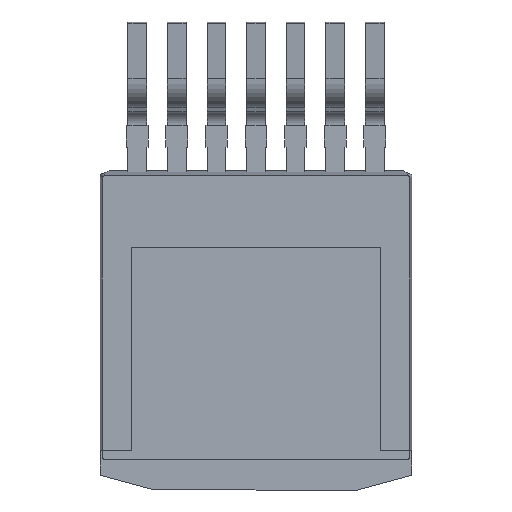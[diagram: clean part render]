
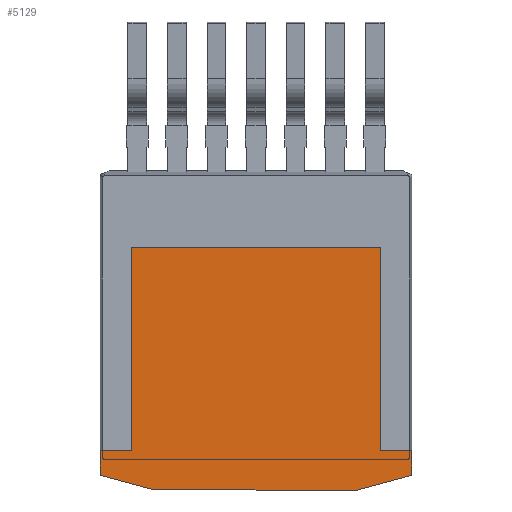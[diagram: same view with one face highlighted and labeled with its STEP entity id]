
A CAD part, front view. The second image highlights one B-rep face of the part: STEP entity #5129.
In plain terms, the highlighted planar face has unit normal (0, -1, 0).
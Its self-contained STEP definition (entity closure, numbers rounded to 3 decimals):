
#76 = VERTEX_POINT ( 'NONE', #78 ) ;
#78 = CARTESIAN_POINT ( 'NONE',  ( -1.126, 0., -7.179 ) ) ;
#385 = VECTOR ( 'NONE', #4995, 1000. ) ;
#397 = VECTOR ( 'NONE', #2663, 1000. ) ;
#427 = CARTESIAN_POINT ( 'NONE',  ( 0., 0., 0. ) ) ;
#635 = VECTOR ( 'NONE', #1934, 1000. ) ;
#771 = VECTOR ( 'NONE', #7649, 1000. ) ;
#830 = VERTEX_POINT ( 'NONE', #6352 ) ;
#856 = CARTESIAN_POINT ( 'NONE',  ( 8.874, 0., -6.379 ) ) ;
#1140 = DIRECTION ( 'NONE',  ( 0., 0., -1. ) ) ;
#1161 = EDGE_CURVE ( 'NONE', #6203, #2457, #2850, .T. ) ;
#1266 = LINE ( 'NONE', #3891, #6854 ) ;
#1291 = VERTEX_POINT ( 'NONE', #4309 ) ;
#1544 = DIRECTION ( 'NONE',  ( 0., 0., -1. ) ) ;
#1553 = VECTOR ( 'NONE', #1563, 1000. ) ;
#1563 = DIRECTION ( 'NONE',  ( 1., 0., 0. ) ) ;
#1595 = VECTOR ( 'NONE', #8121, 1000. ) ;
#1829 = CARTESIAN_POINT ( 'NONE',  ( -1.126, 0., -7.179 ) ) ;
#1854 = ORIENTED_EDGE ( 'NONE', *, *, #6057, .F. ) ;
#1934 = DIRECTION ( 'NONE',  ( 0., 0., -1. ) ) ;
#1938 = ORIENTED_EDGE ( 'NONE', *, *, #4453, .F. ) ;
#2106 = ORIENTED_EDGE ( 'NONE', *, *, #5967, .F. ) ;
#2114 = ORIENTED_EDGE ( 'NONE', *, *, #3976, .F. ) ;
#2134 = CARTESIAN_POINT ( 'NONE',  ( 7.124, 0., -7.648 ) ) ;
#2242 = ORIENTED_EDGE ( 'NONE', *, *, #5327, .F. ) ;
#2457 = VERTEX_POINT ( 'NONE', #5348 ) ;
#2485 = VERTEX_POINT ( 'NONE', #856 ) ;
#2663 = DIRECTION ( 'NONE',  ( -0.966, 0., -0.259 ) ) ;
#2700 = DIRECTION ( 'NONE',  ( -1., 0., 0. ) ) ;
#2719 = VECTOR ( 'NONE', #1544, 1000. ) ;
#2850 = LINE ( 'NONE', #3453, #1553 ) ;
#2907 = LINE ( 'NONE', #5635, #1595 ) ;
#3003 = LINE ( 'NONE', #5684, #385 ) ;
#3070 = LINE ( 'NONE', #1829, #771 ) ;
#3310 = LINE ( 'NONE', #6542, #397 ) ;
#3343 = VERTEX_POINT ( 'NONE', #3466 ) ;
#3453 = CARTESIAN_POINT ( 'NONE',  ( -0.126, 0., -6.379 ) ) ;
#3466 = CARTESIAN_POINT ( 'NONE',  ( 8.874, 0., -7.179 ) ) ;
#3572 = VERTEX_POINT ( 'NONE', #7196 ) ;
#3764 = FACE_OUTER_BOUND ( 'NONE', #5817, .T. ) ;
#3766 = CARTESIAN_POINT ( 'NONE',  ( -1.126, 0., -6.379 ) ) ;
#3891 = CARTESIAN_POINT ( 'NONE',  ( -1.126, 0., -6.379 ) ) ;
#3976 = EDGE_CURVE ( 'NONE', #3572, #76, #3070, .T. ) ;
#4247 = VERTEX_POINT ( 'NONE', #5448 ) ;
#4309 = CARTESIAN_POINT ( 'NONE',  ( 7.874, 0., -6.379 ) ) ;
#4453 = EDGE_CURVE ( 'NONE', #2485, #3343, #5165, .T. ) ;
#4623 = EDGE_CURVE ( 'NONE', #4247, #1291, #4819, .T. ) ;
#4635 = ORIENTED_EDGE ( 'NONE', *, *, #8415, .F. ) ;
#4819 = LINE ( 'NONE', #6156, #2719 ) ;
#4995 = DIRECTION ( 'NONE',  ( 1., 0., 0. ) ) ;
#5122 = LINE ( 'NONE', #2134, #7913 ) ;
#5129 = ADVANCED_FACE ( 'NONE', ( #3764 ), #8242, .T. ) ;
#5165 = LINE ( 'NONE', #7834, #635 ) ;
#5327 = EDGE_CURVE ( 'NONE', #76, #6203, #1266, .T. ) ;
#5348 = CARTESIAN_POINT ( 'NONE',  ( -0.126, 0., -6.379 ) ) ;
#5448 = CARTESIAN_POINT ( 'NONE',  ( 7.874, 0., 0.131 ) ) ;
#5485 = LINE ( 'NONE', #7417, #6667 ) ;
#5581 = VERTEX_POINT ( 'NONE', #7723 ) ;
#5635 = CARTESIAN_POINT ( 'NONE',  ( -0.126, 0., 0.131 ) ) ;
#5684 = CARTESIAN_POINT ( 'NONE',  ( 7.874, 0., -6.379 ) ) ;
#5753 = EDGE_CURVE ( 'NONE', #5581, #4247, #5485, .T. ) ;
#5817 = EDGE_LOOP ( 'NONE', ( #7409, #7145, #1854, #6183, #2242, #2114, #2106, #7846, #1938, #4635 ) ) ;
#5967 = EDGE_CURVE ( 'NONE', #830, #3572, #5122, .T. ) ;
#6057 = EDGE_CURVE ( 'NONE', #2457, #5581, #2907, .T. ) ;
#6156 = CARTESIAN_POINT ( 'NONE',  ( 7.874, 0., 0.131 ) ) ;
#6183 = ORIENTED_EDGE ( 'NONE', *, *, #1161, .F. ) ;
#6203 = VERTEX_POINT ( 'NONE', #3766 ) ;
#6352 = CARTESIAN_POINT ( 'NONE',  ( 7.124, 0., -7.648 ) ) ;
#6481 = DIRECTION ( 'NONE',  ( 0., 0., 1. ) ) ;
#6542 = CARTESIAN_POINT ( 'NONE',  ( 7.124, 0., -7.648 ) ) ;
#6667 = VECTOR ( 'NONE', #7367, 1000. ) ;
#6854 = VECTOR ( 'NONE', #6481, 1000. ) ;
#7037 = DIRECTION ( 'NONE',  ( 0., -1., 0. ) ) ;
#7145 = ORIENTED_EDGE ( 'NONE', *, *, #5753, .F. ) ;
#7196 = CARTESIAN_POINT ( 'NONE',  ( 0.624, 0., -7.648 ) ) ;
#7367 = DIRECTION ( 'NONE',  ( 1., 0., 0. ) ) ;
#7409 = ORIENTED_EDGE ( 'NONE', *, *, #4623, .F. ) ;
#7417 = CARTESIAN_POINT ( 'NONE',  ( -0.126, 0., 0.131 ) ) ;
#7649 = DIRECTION ( 'NONE',  ( -0.966, 0., 0.259 ) ) ;
#7723 = CARTESIAN_POINT ( 'NONE',  ( -0.126, 0., 0.131 ) ) ;
#7834 = CARTESIAN_POINT ( 'NONE',  ( 8.874, 0., -6.379 ) ) ;
#7846 = ORIENTED_EDGE ( 'NONE', *, *, #8203, .F. ) ;
#7913 = VECTOR ( 'NONE', #2700, 1000. ) ;
#8121 = DIRECTION ( 'NONE',  ( 0., 0., 1. ) ) ;
#8203 = EDGE_CURVE ( 'NONE', #3343, #830, #3310, .T. ) ;
#8226 = AXIS2_PLACEMENT_3D ( 'NONE', #427, #7037, #1140 ) ;
#8242 = PLANE ( 'NONE',  #8226 ) ;
#8415 = EDGE_CURVE ( 'NONE', #1291, #2485, #3003, .T. ) ;
